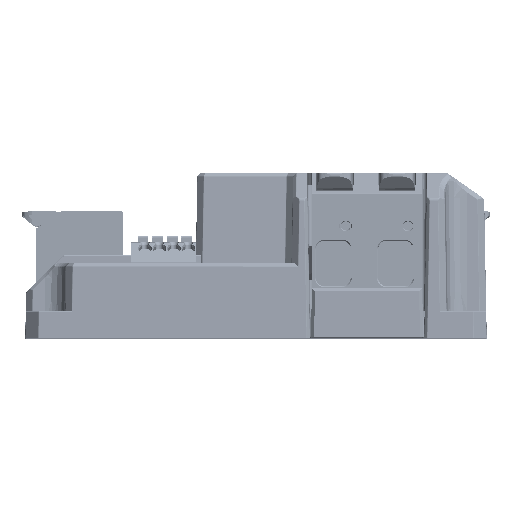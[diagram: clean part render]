
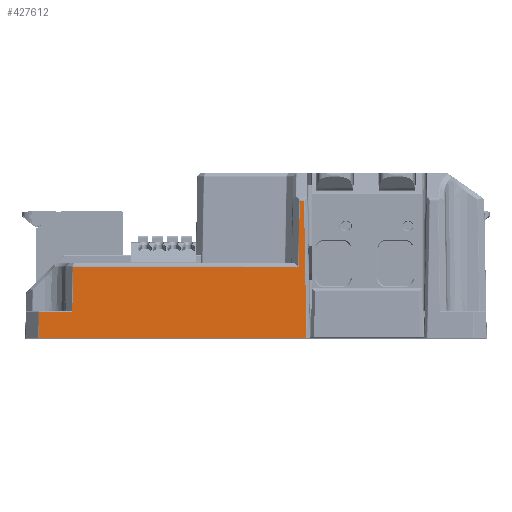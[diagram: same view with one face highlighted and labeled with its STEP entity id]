
A CAD part, top view. The second image highlights one B-rep face of the part: STEP entity #427612.
In plain terms, the highlighted planar face has unit normal (0, 0.018, 1).
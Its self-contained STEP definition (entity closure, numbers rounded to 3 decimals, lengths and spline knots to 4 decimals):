
#5673=PLANE('',#453076);
#34097=FACE_OUTER_BOUND('',#57942,.T.);
#57942=EDGE_LOOP('',(#298085,#298086,#298087,#298088,#298089,#298090,#298091,
#298092,#298093));
#84658=LINE('',#615231,#128393);
#84679=LINE('',#615304,#128414);
#84680=LINE('',#615306,#128415);
#84681=LINE('',#615307,#128416);
#84682=LINE('',#615308,#128417);
#84683=LINE('',#615310,#128418);
#84684=LINE('',#615312,#128419);
#84685=LINE('',#615314,#128420);
#84686=LINE('',#615315,#128421);
#128393=VECTOR('',#494372,39.3701);
#128414=VECTOR('',#494415,39.3701);
#128415=VECTOR('',#494416,39.3701);
#128416=VECTOR('',#494417,39.3701);
#128417=VECTOR('',#494418,39.3701);
#128418=VECTOR('',#494419,39.3701);
#128419=VECTOR('',#494420,39.3701);
#128420=VECTOR('',#494421,39.3701);
#128421=VECTOR('',#494422,39.3701);
#184079=VERTEX_POINT('',#607874);
#186721=VERTEX_POINT('',#615228);
#186722=VERTEX_POINT('',#615230);
#186740=VERTEX_POINT('',#615302);
#186741=VERTEX_POINT('',#615303);
#186742=VERTEX_POINT('',#615305);
#186743=VERTEX_POINT('',#615309);
#186744=VERTEX_POINT('',#615311);
#186745=VERTEX_POINT('',#615313);
#230754=EDGE_CURVE('',#186722,#186721,#84658,.T.);
#230782=EDGE_CURVE('',#186740,#186741,#84679,.T.);
#230783=EDGE_CURVE('',#186741,#186742,#84680,.T.);
#230784=EDGE_CURVE('',#186742,#186722,#84681,.T.);
#230785=EDGE_CURVE('',#186721,#184079,#84682,.T.);
#230786=EDGE_CURVE('',#184079,#186743,#84683,.T.);
#230787=EDGE_CURVE('',#186743,#186744,#84684,.T.);
#230788=EDGE_CURVE('',#186744,#186745,#84685,.T.);
#230789=EDGE_CURVE('',#186745,#186740,#84686,.T.);
#298085=ORIENTED_EDGE('',*,*,#230782,.T.);
#298086=ORIENTED_EDGE('',*,*,#230783,.T.);
#298087=ORIENTED_EDGE('',*,*,#230784,.T.);
#298088=ORIENTED_EDGE('',*,*,#230754,.T.);
#298089=ORIENTED_EDGE('',*,*,#230785,.T.);
#298090=ORIENTED_EDGE('',*,*,#230786,.T.);
#298091=ORIENTED_EDGE('',*,*,#230787,.T.);
#298092=ORIENTED_EDGE('',*,*,#230788,.T.);
#298093=ORIENTED_EDGE('',*,*,#230789,.T.);
#427612=ADVANCED_FACE('',(#34097),#5673,.T.);
#453076=AXIS2_PLACEMENT_3D('',#615301,#494413,#494414);
#494372=DIRECTION('',(1.,0.,0.));
#494413=DIRECTION('center_axis',(0.,0.017,
1.));
#494414=DIRECTION('ref_axis',(0.,-1.,0.017));
#494415=DIRECTION('',(-0.017,-1.,0.017));
#494416=DIRECTION('',(-1.,0.,0.));
#494417=DIRECTION('',(-0.007,-1.,0.017));
#494418=DIRECTION('',(-0.017,1.,-0.017));
#494419=DIRECTION('',(-1.,0.,0.));
#494420=DIRECTION('',(-0.017,-1.,0.017));
#494421=DIRECTION('',(-1.,0.,0.));
#494422=DIRECTION('',(-0.826,-0.563,0.01));
#607874=CARTESIAN_POINT('',(0.4555,1.2967,4.4149));
#615228=CARTESIAN_POINT('',(0.4781,0.,4.4375));
#615230=CARTESIAN_POINT('',(-2.0584,0.,4.4375));
#615231=CARTESIAN_POINT('',(1.5747,0.,4.4375));
#615301=CARTESIAN_POINT('Origin',(1.5747,0.,4.4375));
#615302=CARTESIAN_POINT('',(-1.7342,0.6725,4.4258));
#615303=CARTESIAN_POINT('',(-1.7417,0.2403,4.4333));
#615304=CARTESIAN_POINT('',(-1.7416,0.2499,4.4331));
#615305=CARTESIAN_POINT('',(-2.0567,0.2403,4.4333));
#615306=CARTESIAN_POINT('',(-2.0566,0.2403,4.4333));
#615307=CARTESIAN_POINT('',(-2.0582,0.0263,4.437));
#615308=CARTESIAN_POINT('',(0.4555,1.2966,4.4149));
#615309=CARTESIAN_POINT('',(0.4155,1.2967,4.4149));
#615310=CARTESIAN_POINT('',(1.5747,1.2967,4.4149));
#615311=CARTESIAN_POINT('',(0.4046,0.6726,4.4258));
#615312=CARTESIAN_POINT('',(0.4047,0.6766,4.4257));
#615313=CARTESIAN_POINT('',(-1.7341,0.6726,4.4258));
#615314=CARTESIAN_POINT('',(-1.7341,0.6726,4.4258));
#615315=CARTESIAN_POINT('',(-1.7363,0.6711,4.4258));
